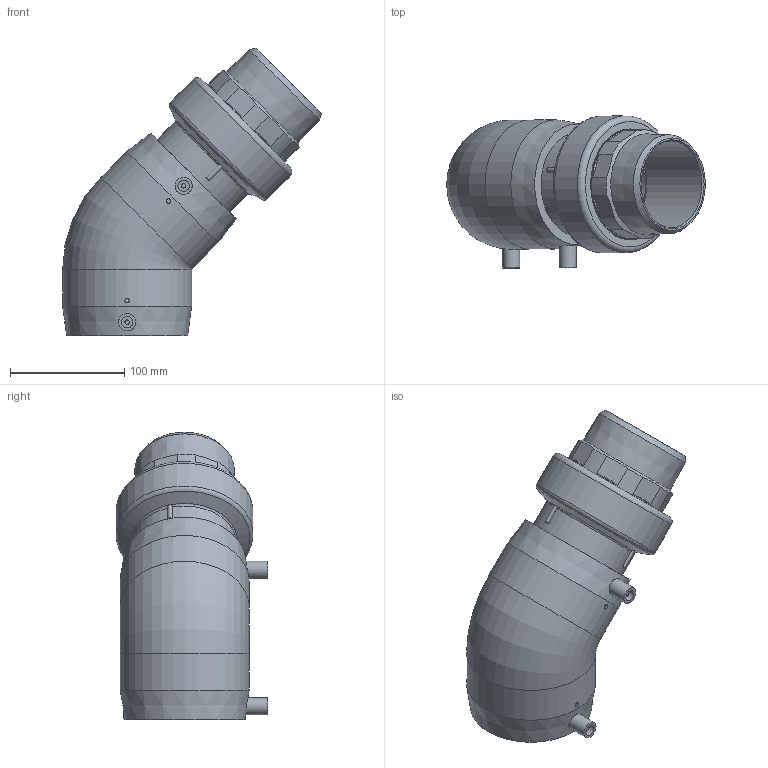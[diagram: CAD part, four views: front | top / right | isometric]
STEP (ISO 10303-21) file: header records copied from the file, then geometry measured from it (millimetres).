
FILE_DESCRIPTION(/* description */ ('Unknown'),/* implementation_level */ '2;1');
FILE_NAME(/* name */ 'GE4TMP090C',/* time_stamp */ '2021-03-02T16:07:50+01:00',/* author */ ('Unknown'),/* organization */ ('Unknown'),/* preprocessor_version */ 'ST-DEVELOPER v16.7',/* originating_system */ 'Solid Edge',/* authorisation */ 'Unknown');
FILE_SCHEMA (('AUTOMOTIVE_DESIGN {1 0 10303 214 3 1 1}'));
Length unit declared in the file: millimetre
Products named in the file (5): GE4TMP090C; GE4P090C; RTOMP090C; Parte PE 090; IOM090C
Assembly tree (4 placements, depth 3):
  GE4TMP090C
    GE4P090C
    RTOMP090C
      Parte PE 090
      IOM090C
Bounding box: 226.58 x 132.88 x 252.08 mm (x, y, z)
Volume: 1121889.2 mm3; surface area: 260276.7 mm2
Topology: 3 solids, 3 shells, 427 faces, 1194 edges, 780 vertices
Faces by surface type: cylinder 199, cone 92, plane 86, torus 21, bspline 15, sphere 14
Full cylindrical faces by diameter (mm): 4 x4, 10 x2, 15 x2, 73.6 x1, 76 x2, 79.5 x2, 84.3 x2, 84.5 x2, 90 x3, 95.5 x1, 98 x2, 104 x4, 113 x2, 120 x1
Entity records: 16089 total; most frequent: CARTESIAN_POINT 5049, ORIENTED_EDGE 2184, DIRECTION 1758, EDGE_CURVE 1092, AXIS2_PLACEMENT_3D 865, VERTEX_POINT 745, B_SPLINE_CURVE_WITH_KNOTS 616, EDGE_LOOP 507
